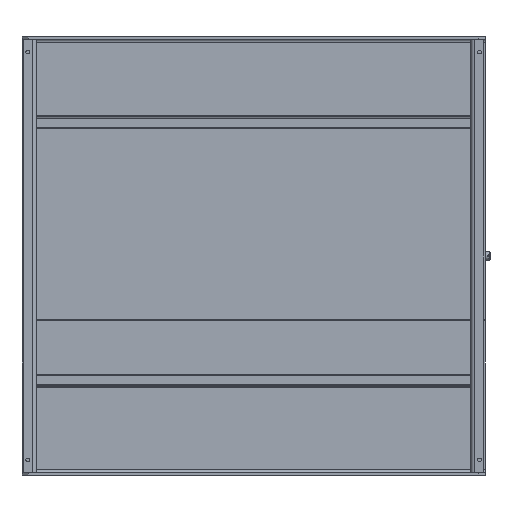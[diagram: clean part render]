
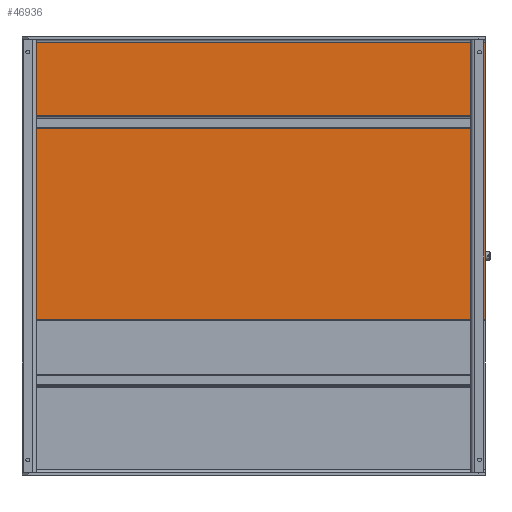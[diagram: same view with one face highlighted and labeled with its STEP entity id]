
A CAD part, front view. The second image highlights one B-rep face of the part: STEP entity #46936.
In plain terms, the highlighted planar face has unit normal (0, -1, 0).
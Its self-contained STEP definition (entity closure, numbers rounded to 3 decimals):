
#2116 = EDGE_CURVE ( 'NONE', #57715, #79202, #50376, .T. ) ;
#3229 = AXIS2_PLACEMENT_3D ( 'NONE', #53429, #16585, #68329 ) ;
#4213 = LINE ( 'NONE', #84776, #80530 ) ;
#6014 = ORIENTED_EDGE ( 'NONE', *, *, #48657, .F. ) ;
#9199 = PLANE ( 'NONE',  #3229 ) ;
#11444 = EDGE_LOOP ( 'NONE', ( #14103, #23364, #6014, #30410 ) ) ;
#14103 = ORIENTED_EDGE ( 'NONE', *, *, #23581, .F. ) ;
#16585 = DIRECTION ( 'NONE',  ( 0., -1., 0. ) ) ;
#17740 = CARTESIAN_POINT ( 'NONE',  ( -45.592, -3.427, 25.543 ) ) ;
#18501 = CARTESIAN_POINT ( 'NONE',  ( -45.592, -3.427, 25.543 ) ) ;
#23364 = ORIENTED_EDGE ( 'NONE', *, *, #2116, .F. ) ;
#23581 = EDGE_CURVE ( 'NONE', #79202, #91564, #4213, .T. ) ;
#25656 = CARTESIAN_POINT ( 'NONE',  ( -45.592, -3.427, 26.386 ) ) ;
#29550 = DIRECTION ( 'NONE',  ( -1., 0., 0. ) ) ;
#30410 = ORIENTED_EDGE ( 'NONE', *, *, #74587, .F. ) ;
#31222 = LINE ( 'NONE', #66406, #90198 ) ;
#43498 = VECTOR ( 'NONE', #69938, 39.37 ) ;
#46936 = ADVANCED_FACE ( 'NONE', ( #75022 ), #9199, .T. ) ;
#48105 = LINE ( 'NONE', #25656, #43498 ) ;
#48657 = EDGE_CURVE ( 'NONE', #53477, #57715, #48105, .T. ) ;
#50376 = LINE ( 'NONE', #18501, #67761 ) ;
#53429 = CARTESIAN_POINT ( 'NONE',  ( -45.592, -3.427, -17.614 ) ) ;
#53477 = VERTEX_POINT ( 'NONE', #65709 ) ;
#55359 = DIRECTION ( 'NONE',  ( 0., 0., -1. ) ) ;
#57715 = VERTEX_POINT ( 'NONE', #17740 ) ;
#65709 = CARTESIAN_POINT ( 'NONE',  ( -45.592, -3.427, -17.614 ) ) ;
#66406 = CARTESIAN_POINT ( 'NONE',  ( -45.592, -3.427, -17.614 ) ) ;
#67761 = VECTOR ( 'NONE', #70548, 39.37 ) ;
#68329 = DIRECTION ( 'NONE',  ( 0., 0., -1. ) ) ;
#69938 = DIRECTION ( 'NONE',  ( 0., 0., 1. ) ) ;
#70548 = DIRECTION ( 'NONE',  ( 1., 0., 0. ) ) ;
#74587 = EDGE_CURVE ( 'NONE', #91564, #53477, #31222, .T. ) ;
#75022 = FACE_OUTER_BOUND ( 'NONE', #11444, .T. ) ;
#76879 = CARTESIAN_POINT ( 'NONE',  ( 26.408, -3.427, 25.543 ) ) ;
#79202 = VERTEX_POINT ( 'NONE', #76879 ) ;
#80530 = VECTOR ( 'NONE', #55359, 39.37 ) ;
#84776 = CARTESIAN_POINT ( 'NONE',  ( 26.408, -3.427, 26.386 ) ) ;
#90198 = VECTOR ( 'NONE', #29550, 39.37 ) ;
#91564 = VERTEX_POINT ( 'NONE', #91735 ) ;
#91735 = CARTESIAN_POINT ( 'NONE',  ( 26.408, -3.427, -17.614 ) ) ;
